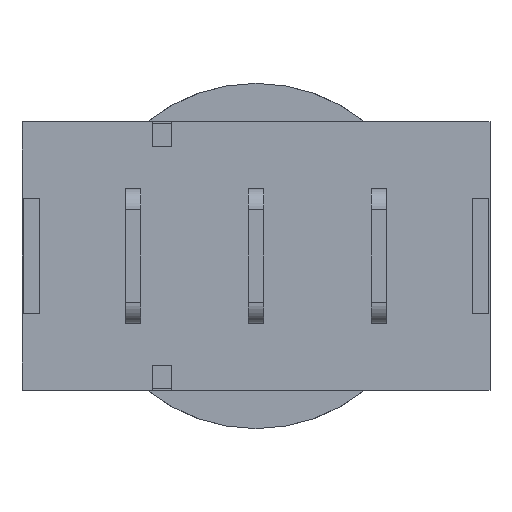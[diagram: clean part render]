
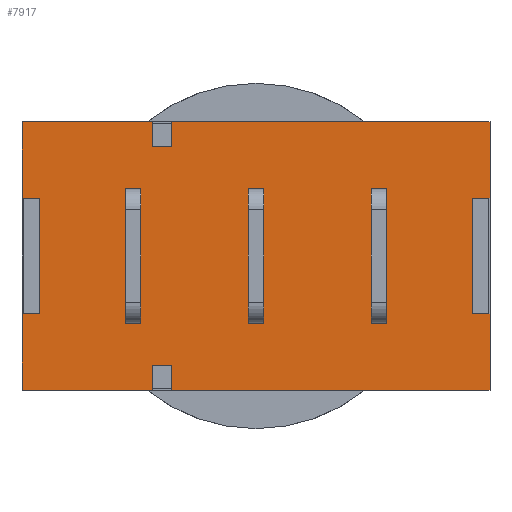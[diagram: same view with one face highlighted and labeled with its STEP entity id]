
A CAD part, front view. The second image highlights one B-rep face of the part: STEP entity #7917.
In plain terms, the highlighted planar face has unit normal (0, -1, 0).
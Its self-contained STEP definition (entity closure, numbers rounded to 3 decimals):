
#88=FACE_BOUND('',#1102,.T.);
#89=FACE_BOUND('',#1103,.T.);
#90=FACE_BOUND('',#1104,.T.);
#653=FACE_OUTER_BOUND('',#1101,.T.);
#1101=EDGE_LOOP('',(#6978,#6979,#6980,#6981,#6982,#6983,#6984,#6985,#6986,
#6987,#6988,#6989,#6990,#6991,#6992,#6993,#6994,#6995,#6996,#6997));
#1102=EDGE_LOOP('',(#6998,#6999,#7000,#7001));
#1103=EDGE_LOOP('',(#7002,#7003,#7004,#7005));
#1104=EDGE_LOOP('',(#7006,#7007,#7008,#7009));
#1139=LINE('',#10720,#2129);
#1148=LINE('',#10747,#2138);
#1157=LINE('',#10774,#2147);
#2016=LINE('',#12703,#3006);
#2019=LINE('',#12709,#3009);
#2030=LINE('',#12731,#3020);
#2052=LINE('',#12773,#3042);
#2062=LINE('',#12791,#3052);
#2064=LINE('',#12795,#3054);
#2065=LINE('',#12798,#3055);
#2069=LINE('',#12805,#3059);
#2072=LINE('',#12811,#3062);
#2075=LINE('',#12816,#3065);
#2077=LINE('',#12821,#3067);
#2080=LINE('',#12827,#3070);
#2083=LINE('',#12832,#3073);
#2085=LINE('',#12837,#3075);
#2087=LINE('',#12841,#3077);
#2089=LINE('',#12844,#3079);
#2090=LINE('',#12848,#3080);
#2093=LINE('',#12853,#3083);
#2095=LINE('',#12856,#3085);
#2096=LINE('',#12858,#3086);
#2097=LINE('',#12861,#3087);
#2098=LINE('',#12863,#3088);
#2099=LINE('',#12864,#3089);
#2100=LINE('',#12867,#3090);
#2101=LINE('',#12868,#3091);
#2102=LINE('',#12869,#3092);
#2103=LINE('',#12871,#3093);
#2104=LINE('',#12873,#3094);
#2105=LINE('',#12874,#3095);
#2129=VECTOR('',#8584,10.);
#2138=VECTOR('',#8609,10.);
#2147=VECTOR('',#8634,10.);
#3006=VECTOR('',#10471,10.);
#3009=VECTOR('',#10476,10.);
#3020=VECTOR('',#10493,10.);
#3042=VECTOR('',#10527,10.);
#3052=VECTOR('',#10545,10.);
#3054=VECTOR('',#10549,10.);
#3055=VECTOR('',#10552,10.);
#3059=VECTOR('',#10560,10.);
#3062=VECTOR('',#10565,10.);
#3065=VECTOR('',#10570,10.);
#3067=VECTOR('',#10576,10.);
#3070=VECTOR('',#10581,10.);
#3073=VECTOR('',#10586,10.);
#3075=VECTOR('',#10592,10.);
#3077=VECTOR('',#10596,10.);
#3079=VECTOR('',#10600,10.);
#3080=VECTOR('',#10603,10.);
#3083=VECTOR('',#10608,10.);
#3085=VECTOR('',#10612,10.);
#3086=VECTOR('',#10615,10.);
#3087=VECTOR('',#10618,10.);
#3088=VECTOR('',#10619,10.);
#3089=VECTOR('',#10620,10.);
#3090=VECTOR('',#10621,10.);
#3091=VECTOR('',#10622,10.);
#3092=VECTOR('',#10623,10.);
#3093=VECTOR('',#10624,10.);
#3094=VECTOR('',#10625,10.);
#3095=VECTOR('',#10626,10.);
#3123=VERTEX_POINT('',#10717);
#3124=VERTEX_POINT('',#10719);
#3133=VERTEX_POINT('',#10744);
#3134=VERTEX_POINT('',#10746);
#3143=VERTEX_POINT('',#10771);
#3144=VERTEX_POINT('',#10773);
#3697=VERTEX_POINT('',#12700);
#3698=VERTEX_POINT('',#12702);
#3699=VERTEX_POINT('',#12706);
#3700=VERTEX_POINT('',#12708);
#3707=VERTEX_POINT('',#12728);
#3708=VERTEX_POINT('',#12730);
#3721=VERTEX_POINT('',#12770);
#3722=VERTEX_POINT('',#12772);
#3726=VERTEX_POINT('',#12789);
#3727=VERTEX_POINT('',#12793);
#3728=VERTEX_POINT('',#12797);
#3729=VERTEX_POINT('',#12804);
#3731=VERTEX_POINT('',#12810);
#3733=VERTEX_POINT('',#12820);
#3735=VERTEX_POINT('',#12826);
#3737=VERTEX_POINT('',#12836);
#3738=VERTEX_POINT('',#12840);
#3739=VERTEX_POINT('',#12846);
#3740=VERTEX_POINT('',#12847);
#3741=VERTEX_POINT('',#12852);
#3742=VERTEX_POINT('',#12860);
#3743=VERTEX_POINT('',#12862);
#3744=VERTEX_POINT('',#12865);
#3745=VERTEX_POINT('',#12866);
#3746=VERTEX_POINT('',#12870);
#3747=VERTEX_POINT('',#12872);
#3776=EDGE_CURVE('',#3124,#3123,#1139,.T.);
#3789=EDGE_CURVE('',#3134,#3133,#1148,.T.);
#3802=EDGE_CURVE('',#3144,#3143,#1157,.T.);
#4775=EDGE_CURVE('',#3697,#3698,#2016,.T.);
#4778=EDGE_CURVE('',#3699,#3700,#2019,.T.);
#4789=EDGE_CURVE('',#3708,#3707,#2030,.T.);
#4811=EDGE_CURVE('',#3722,#3721,#2052,.T.);
#4821=EDGE_CURVE('',#3707,#3726,#2062,.T.);
#4823=EDGE_CURVE('',#3727,#3721,#2064,.T.);
#4824=EDGE_CURVE('',#3698,#3728,#2065,.T.);
#4828=EDGE_CURVE('',#3729,#3728,#2069,.T.);
#4831=EDGE_CURVE('',#3731,#3729,#2072,.T.);
#4834=EDGE_CURVE('',#3727,#3731,#2075,.T.);
#4836=EDGE_CURVE('',#3697,#3733,#2077,.T.);
#4839=EDGE_CURVE('',#3735,#3700,#2080,.T.);
#4842=EDGE_CURVE('',#3733,#3735,#2083,.T.);
#4844=EDGE_CURVE('',#3737,#3722,#2085,.T.);
#4846=EDGE_CURVE('',#3738,#3737,#2087,.T.);
#4848=EDGE_CURVE('',#3726,#3738,#2089,.T.);
#4849=EDGE_CURVE('',#3739,#3740,#2090,.T.);
#4852=EDGE_CURVE('',#3741,#3739,#2093,.T.);
#4854=EDGE_CURVE('',#3740,#3708,#2095,.T.);
#4855=EDGE_CURVE('',#3699,#3741,#2096,.T.);
#4856=EDGE_CURVE('',#3143,#3742,#2097,.T.);
#4857=EDGE_CURVE('',#3742,#3743,#2098,.T.);
#4858=EDGE_CURVE('',#3743,#3144,#2099,.T.);
#4859=EDGE_CURVE('',#3744,#3745,#2100,.T.);
#4860=EDGE_CURVE('',#3745,#3134,#2101,.T.);
#4861=EDGE_CURVE('',#3133,#3744,#2102,.T.);
#4862=EDGE_CURVE('',#3123,#3746,#2103,.T.);
#4863=EDGE_CURVE('',#3746,#3747,#2104,.T.);
#4864=EDGE_CURVE('',#3747,#3124,#2105,.T.);
#6978=ORIENTED_EDGE('',*,*,#4834,.T.);
#6979=ORIENTED_EDGE('',*,*,#4831,.T.);
#6980=ORIENTED_EDGE('',*,*,#4828,.T.);
#6981=ORIENTED_EDGE('',*,*,#4824,.F.);
#6982=ORIENTED_EDGE('',*,*,#4775,.F.);
#6983=ORIENTED_EDGE('',*,*,#4836,.T.);
#6984=ORIENTED_EDGE('',*,*,#4842,.T.);
#6985=ORIENTED_EDGE('',*,*,#4839,.T.);
#6986=ORIENTED_EDGE('',*,*,#4778,.F.);
#6987=ORIENTED_EDGE('',*,*,#4855,.T.);
#6988=ORIENTED_EDGE('',*,*,#4852,.T.);
#6989=ORIENTED_EDGE('',*,*,#4849,.T.);
#6990=ORIENTED_EDGE('',*,*,#4854,.T.);
#6991=ORIENTED_EDGE('',*,*,#4789,.T.);
#6992=ORIENTED_EDGE('',*,*,#4821,.T.);
#6993=ORIENTED_EDGE('',*,*,#4848,.T.);
#6994=ORIENTED_EDGE('',*,*,#4846,.T.);
#6995=ORIENTED_EDGE('',*,*,#4844,.T.);
#6996=ORIENTED_EDGE('',*,*,#4811,.T.);
#6997=ORIENTED_EDGE('',*,*,#4823,.F.);
#6998=ORIENTED_EDGE('',*,*,#3802,.T.);
#6999=ORIENTED_EDGE('',*,*,#4856,.T.);
#7000=ORIENTED_EDGE('',*,*,#4857,.T.);
#7001=ORIENTED_EDGE('',*,*,#4858,.T.);
#7002=ORIENTED_EDGE('',*,*,#4859,.T.);
#7003=ORIENTED_EDGE('',*,*,#4860,.T.);
#7004=ORIENTED_EDGE('',*,*,#3789,.T.);
#7005=ORIENTED_EDGE('',*,*,#4861,.T.);
#7006=ORIENTED_EDGE('',*,*,#3776,.T.);
#7007=ORIENTED_EDGE('',*,*,#4862,.T.);
#7008=ORIENTED_EDGE('',*,*,#4863,.T.);
#7009=ORIENTED_EDGE('',*,*,#4864,.T.);
#7478=PLANE('',#8511);
#7917=ADVANCED_FACE('',(#653,#88,#89,#90),#7478,.T.);
#8511=AXIS2_PLACEMENT_3D('',#12859,#10616,#10617);
#8584=DIRECTION('',(0.,0.,1.));
#8609=DIRECTION('',(0.,0.,1.));
#8634=DIRECTION('',(0.,0.,1.));
#10471=DIRECTION('',(0.,0.,1.));
#10476=DIRECTION('',(0.,0.,1.));
#10493=DIRECTION('',(1.,0.,0.));
#10527=DIRECTION('',(0.,0.,1.));
#10545=DIRECTION('',(0.,0.,1.));
#10549=DIRECTION('',(1.,0.,0.));
#10552=DIRECTION('',(1.,0.,0.));
#10560=DIRECTION('',(0.,0.,1.));
#10565=DIRECTION('',(-1.,0.,0.));
#10570=DIRECTION('',(0.,0.,-1.));
#10576=DIRECTION('',(1.,0.,0.));
#10581=DIRECTION('',(-1.,0.,0.));
#10586=DIRECTION('',(0.,0.,-1.));
#10592=DIRECTION('',(1.,0.,0.));
#10596=DIRECTION('',(0.,0.,1.));
#10600=DIRECTION('',(-1.,0.,0.));
#10603=DIRECTION('',(1.,0.,0.));
#10608=DIRECTION('',(0.,0.,1.));
#10612=DIRECTION('',(0.,0.,-1.));
#10615=DIRECTION('',(1.,0.,0.));
#10616=DIRECTION('center_axis',(0.,-1.,0.));
#10617=DIRECTION('ref_axis',(1.,0.,0.));
#10618=DIRECTION('',(1.,0.,0.));
#10619=DIRECTION('',(0.,0.,-1.));
#10620=DIRECTION('',(-1.,0.,0.));
#10621=DIRECTION('',(0.,0.,-1.));
#10622=DIRECTION('',(-1.,0.,0.));
#10623=DIRECTION('',(1.,0.,0.));
#10624=DIRECTION('',(1.,0.,0.));
#10625=DIRECTION('',(0.,0.,-1.));
#10626=DIRECTION('',(-1.,0.,0.));
#10717=CARTESIAN_POINT('',(18.2,0.,10.5));
#10719=CARTESIAN_POINT('',(18.2,0.,3.5));
#10720=CARTESIAN_POINT('',(18.2,0.,5.25));
#10744=CARTESIAN_POINT('',(11.8,0.,10.5));
#10746=CARTESIAN_POINT('',(11.8,0.,3.5));
#10747=CARTESIAN_POINT('',(11.8,0.,5.25));
#10771=CARTESIAN_POINT('',(5.4,0.,10.5));
#10773=CARTESIAN_POINT('',(5.4,0.,3.5));
#10774=CARTESIAN_POINT('',(5.4,0.,5.25));
#12700=CARTESIAN_POINT('',(0.,0.,10.));
#12702=CARTESIAN_POINT('',(0.,0.,14.));
#12703=CARTESIAN_POINT('',(0.,0.,0.));
#12706=CARTESIAN_POINT('',(0.,0.,0.));
#12708=CARTESIAN_POINT('',(0.,0.,4.));
#12709=CARTESIAN_POINT('',(0.,0.,0.));
#12728=CARTESIAN_POINT('',(24.4,0.,0.));
#12730=CARTESIAN_POINT('',(7.8,0.,0.));
#12731=CARTESIAN_POINT('',(0.,0.,0.));
#12770=CARTESIAN_POINT('',(24.4,0.,14.));
#12772=CARTESIAN_POINT('',(24.4,0.,10.));
#12773=CARTESIAN_POINT('',(24.4,0.,0.));
#12789=CARTESIAN_POINT('',(24.4,0.,4.));
#12791=CARTESIAN_POINT('',(24.4,0.,0.));
#12793=CARTESIAN_POINT('',(7.8,0.,14.));
#12795=CARTESIAN_POINT('',(0.,0.,14.));
#12797=CARTESIAN_POINT('',(6.8,0.,14.));
#12798=CARTESIAN_POINT('',(0.,0.,14.));
#12804=CARTESIAN_POINT('',(6.8,0.,12.7));
#12805=CARTESIAN_POINT('',(6.8,0.,6.35));
#12810=CARTESIAN_POINT('',(7.8,0.,12.7));
#12811=CARTESIAN_POINT('',(3.9,0.,12.7));
#12816=CARTESIAN_POINT('',(7.8,0.,7.));
#12820=CARTESIAN_POINT('',(0.9,0.,10.));
#12821=CARTESIAN_POINT('',(0.,0.,10.));
#12826=CARTESIAN_POINT('',(0.9,0.,4.));
#12827=CARTESIAN_POINT('',(0.45,0.,4.));
#12832=CARTESIAN_POINT('',(0.9,0.,5.));
#12836=CARTESIAN_POINT('',(23.5,0.,10.));
#12837=CARTESIAN_POINT('',(11.75,0.,10.));
#12840=CARTESIAN_POINT('',(23.5,0.,4.));
#12841=CARTESIAN_POINT('',(23.5,0.,2.));
#12844=CARTESIAN_POINT('',(12.2,0.,4.));
#12846=CARTESIAN_POINT('',(6.8,0.,1.3));
#12847=CARTESIAN_POINT('',(7.8,0.,1.3));
#12848=CARTESIAN_POINT('',(3.4,0.,1.3));
#12852=CARTESIAN_POINT('',(6.8,0.,0.));
#12853=CARTESIAN_POINT('',(6.8,0.,0.));
#12856=CARTESIAN_POINT('',(7.8,0.,0.65));
#12858=CARTESIAN_POINT('',(0.,0.,0.));
#12859=CARTESIAN_POINT('Origin',(0.,0.,0.));
#12860=CARTESIAN_POINT('',(6.2,0.,10.5));
#12861=CARTESIAN_POINT('',(3.1,0.,10.5));
#12862=CARTESIAN_POINT('',(6.2,0.,3.5));
#12863=CARTESIAN_POINT('',(6.2,0.,1.75));
#12864=CARTESIAN_POINT('',(2.7,0.,3.5));
#12865=CARTESIAN_POINT('',(12.6,0.,10.5));
#12866=CARTESIAN_POINT('',(12.6,0.,3.5));
#12867=CARTESIAN_POINT('',(12.6,0.,1.75));
#12868=CARTESIAN_POINT('',(5.9,0.,3.5));
#12869=CARTESIAN_POINT('',(6.3,0.,10.5));
#12870=CARTESIAN_POINT('',(19.,0.,10.5));
#12871=CARTESIAN_POINT('',(9.5,0.,10.5));
#12872=CARTESIAN_POINT('',(19.,0.,3.5));
#12873=CARTESIAN_POINT('',(19.,0.,1.75));
#12874=CARTESIAN_POINT('',(9.1,0.,3.5));
